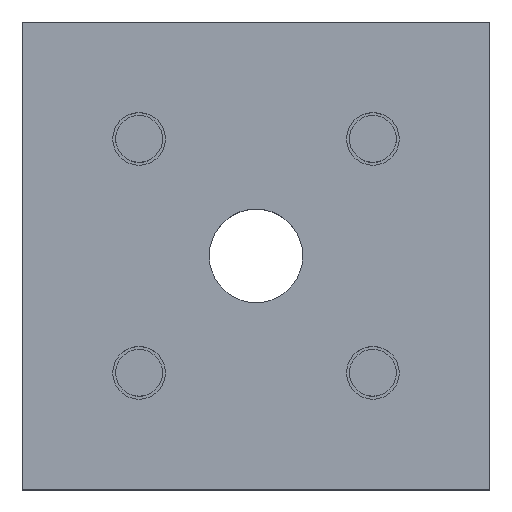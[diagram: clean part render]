
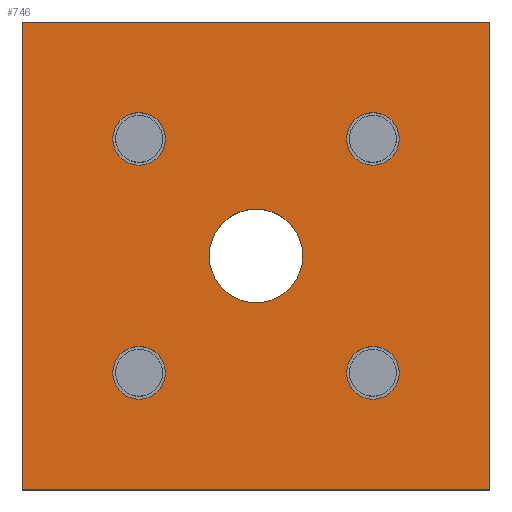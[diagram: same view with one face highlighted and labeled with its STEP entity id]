
A CAD part, top view. The second image highlights one B-rep face of the part: STEP entity #746.
In plain terms, the highlighted planar face has unit normal (0, 0, 1).
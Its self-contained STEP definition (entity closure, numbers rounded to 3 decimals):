
#202=CARTESIAN_POINT('',(20.,-24.5,0.0));
#203=VERTEX_POINT('',#202);
#204=CARTESIAN_POINT('',(20.,-20.,0.0));
#205=DIRECTION('',(0.0,0.0,-1.0));
#206=DIRECTION('',(0.0,1.0,0.0));
#207=AXIS2_PLACEMENT_3D('',#204,#205,#206);
#208=CIRCLE('',#207,4.5);
#209=EDGE_CURVE('',#203,#203,#208,.T.);
#312=CARTESIAN_POINT('',(-24.5,-20.,0.0));
#313=VERTEX_POINT('',#312);
#314=CARTESIAN_POINT('',(-20.,-20.,0.0));
#315=DIRECTION('',(0.0,0.0,-1.0));
#316=DIRECTION('',(1.0,0.0,0.0));
#317=AXIS2_PLACEMENT_3D('',#314,#315,#316);
#318=CIRCLE('',#317,4.5);
#319=EDGE_CURVE('',#313,#313,#318,.T.);
#422=CARTESIAN_POINT('',(-20.,24.5,0.0));
#423=VERTEX_POINT('',#422);
#424=CARTESIAN_POINT('',(-20.,20.,0.0));
#425=DIRECTION('',(0.0,0.0,-1.0));
#426=DIRECTION('',(0.0,-1.0,0.0));
#427=AXIS2_PLACEMENT_3D('',#424,#425,#426);
#428=CIRCLE('',#427,4.5);
#429=EDGE_CURVE('',#423,#423,#428,.T.);
#532=CARTESIAN_POINT('',(24.5,20.,0.0));
#533=VERTEX_POINT('',#532);
#534=CARTESIAN_POINT('',(20.,20.,0.0));
#535=DIRECTION('',(0.0,0.0,-1.0));
#536=DIRECTION('',(-1.0,0.0,0.0));
#537=AXIS2_PLACEMENT_3D('',#534,#535,#536);
#538=CIRCLE('',#537,4.5);
#539=EDGE_CURVE('',#533,#533,#538,.T.);
#584=CARTESIAN_POINT('',(8.,0.0,0.0));
#585=VERTEX_POINT('',#584);
#586=CARTESIAN_POINT('',(0.0,0.0,0.0));
#587=DIRECTION('',(0.0,0.0,-1.0));
#588=DIRECTION('',(1.0,0.0,0.0));
#589=AXIS2_PLACEMENT_3D('',#586,#587,#588);
#590=CIRCLE('',#589,8.);
#591=EDGE_CURVE('',#585,#585,#590,.T.);
#611=CARTESIAN_POINT('',(40.,-40.,0.0));
#612=VERTEX_POINT('',#611);
#619=CARTESIAN_POINT('',(-40.,-40.,0.0));
#620=VERTEX_POINT('',#619);
#621=CARTESIAN_POINT('',(40.,-40.,0.0));
#622=DIRECTION('',(-1.0,0.0,0.0));
#623=VECTOR('',#622,80.);
#624=LINE('',#621,#623);
#625=EDGE_CURVE('',#612,#620,#624,.T.);
#649=CARTESIAN_POINT('',(40.,40.,0.0));
#650=VERTEX_POINT('',#649);
#657=CARTESIAN_POINT('',(40.,40.,0.0));
#658=DIRECTION('',(0.0,-1.0,0.0));
#659=VECTOR('',#658,80.);
#660=LINE('',#657,#659);
#661=EDGE_CURVE('',#650,#612,#660,.T.);
#680=CARTESIAN_POINT('',(-40.,40.,0.0));
#681=VERTEX_POINT('',#680);
#688=CARTESIAN_POINT('',(-40.,40.,0.0));
#689=DIRECTION('',(1.0,0.0,0.0));
#690=VECTOR('',#689,80.);
#691=LINE('',#688,#690);
#692=EDGE_CURVE('',#681,#650,#691,.T.);
#710=CARTESIAN_POINT('',(-40.,-40.,0.0));
#711=DIRECTION('',(0.0,1.0,0.0));
#712=VECTOR('',#711,80.);
#713=LINE('',#710,#712);
#714=EDGE_CURVE('',#620,#681,#713,.T.);
#720=CARTESIAN_POINT('',(0.,0.0,0.0));
#721=DIRECTION('',(0.0,0.0,1.0));
#722=DIRECTION('',(1.0,0.0,0.0));
#723=AXIS2_PLACEMENT_3D('',#720,#721,#722);
#724=PLANE('',#723);
#725=ORIENTED_EDGE('',*,*,#714,.F.);
#726=ORIENTED_EDGE('',*,*,#625,.F.);
#727=ORIENTED_EDGE('',*,*,#661,.F.);
#728=ORIENTED_EDGE('',*,*,#692,.F.);
#729=EDGE_LOOP('',(#725,#726,#727,#728));
#730=FACE_OUTER_BOUND('',#729,.T.);
#731=ORIENTED_EDGE('',*,*,#209,.T.);
#732=EDGE_LOOP('',(#731));
#733=FACE_BOUND('',#732,.T.);
#734=ORIENTED_EDGE('',*,*,#319,.T.);
#735=EDGE_LOOP('',(#734));
#736=FACE_BOUND('',#735,.T.);
#737=ORIENTED_EDGE('',*,*,#429,.T.);
#738=EDGE_LOOP('',(#737));
#739=FACE_BOUND('',#738,.T.);
#740=ORIENTED_EDGE('',*,*,#539,.T.);
#741=EDGE_LOOP('',(#740));
#742=FACE_BOUND('',#741,.T.);
#743=ORIENTED_EDGE('',*,*,#591,.T.);
#744=EDGE_LOOP('',(#743));
#745=FACE_BOUND('',#744,.T.);
#746=ADVANCED_FACE('',(#730,#733,#736,#739,#742,#745),#724,.T.);
